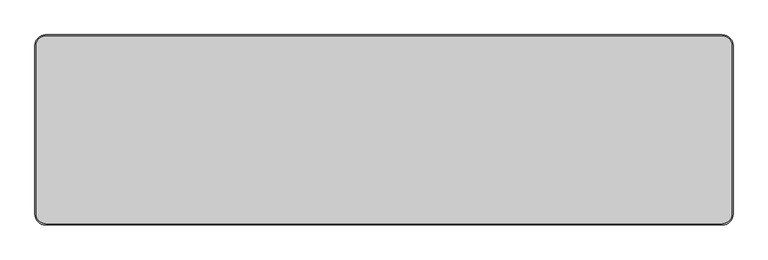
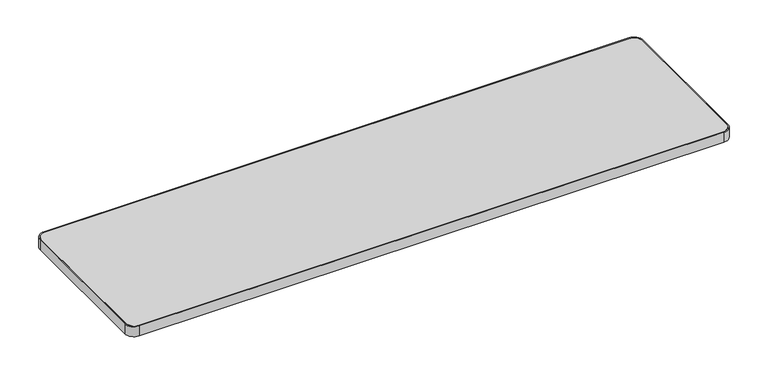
"""IFC4 building model written with IfcOpenShell, lengths in millimetres: furniture geometry, Steelcase - Groupwork - Table - Top - Rectangular : 18D x 66W - HPL."""

from ifc_helpers import new_model, si_unit, point, frame, frame_2d, origin, place, context, project, spatial, polyline, circle_curve, trimmed, segment, composite_curve, outline, extrude, source, transform, mapped, element, save


def furniture_92243f09(model_context):
    return source(origin(), model_context, "Body", "SweptSolid", [
        extrude(outline(composite_curve([segment(polyline([(-840.74, 225.6), (783.94, 225.6)]), True, "CONTINUOUS"), segment(trimmed(circle_curve(frame_2d((783.94, 202.74)), 22.86), [point((783.94, 225.6))], [point((806.8, 202.74))], False, "CARTESIAN"), True, "CONTINUOUS"), segment(polyline([(806.8, 202.74), (806.8, -202.74)]), True, "CONTINUOUS"), segment(trimmed(circle_curve(frame_2d((783.94, -202.74)), 22.86), [point((806.8, -202.74))], [point((783.94, -225.6))], False, "CARTESIAN"), True, "CONTINUOUS"), segment(polyline([(783.94, -225.6), (-840.74, -225.6)]), True, "CONTINUOUS"), segment(trimmed(circle_curve(frame_2d((-840.74, -202.74)), 22.86), [point((-840.74, -225.6))], [point((-863.6, -202.74))], False, "CARTESIAN"), True, "CONTINUOUS"), segment(polyline([(-863.6, -202.74), (-863.6, 202.74)]), True, "CONTINUOUS"), segment(trimmed(circle_curve(frame_2d((-840.74, 202.74)), 22.86), [point((-863.6, 202.74))], [point((-840.74, 225.6))], False, "CARTESIAN"), True, "CONTINUOUS")], self_intersect=False)), frame((0.0, 0.0, 694.944), z_axis=(0.0, 0.0, 1.0), x_axis=(1.0, 0.0, 0.0)), (0.0, 0.0, 1.0), 28.956),
        extrude(outline(composite_curve([segment(trimmed(circle_curve(frame_2d((784.3385373, 203.1385373)), 25.4614627), [point((784.3385373, 228.6))], [point((809.8, 203.1385373))], False, "CARTESIAN"), True, "CONTINUOUS"), segment(polyline([(809.8, 203.1385373), (809.8, -203.2211297)]), True, "CONTINUOUS"), segment(trimmed(circle_curve(frame_2d((784.4211297, -203.2211297)), 25.3788703), [point((809.8, -203.2211297))], [point((784.4211297, -228.6))], False, "CARTESIAN"), True, "CONTINUOUS"), segment(polyline([(784.4211297, -228.6), (-841.2, -228.6)]), True, "CONTINUOUS"), segment(trimmed(circle_curve(frame_2d((-841.2, -203.2)), 25.4), [point((-841.2, -228.6))], [point((-866.6, -203.2))], False, "CARTESIAN"), True, "CONTINUOUS"), segment(polyline([(-866.6, -203.2), (-866.6, 203.2)]), True, "CONTINUOUS"), segment(trimmed(circle_curve(frame_2d((-841.2, 203.2)), 25.4), [point((-866.6, 203.2))], [point((-841.2, 228.6))], False, "CARTESIAN"), True, "CONTINUOUS"), segment(polyline([(-841.2, 228.6), (784.3385373, 228.6)]), True, "CONTINUOUS")], self_intersect=False), holes=[composite_curve([segment(polyline([(784.0064662, 225.6), (-840.74, 225.6)]), True, "CONTINUOUS"), segment(trimmed(circle_curve(frame_2d((-840.74, 202.74)), 22.86), [point((-840.74, 225.6))], [point((-863.6, 202.74))], True, "CARTESIAN"), True, "CONTINUOUS"), segment(polyline([(-863.6, 202.74), (-863.6, -202.74)]), True, "CONTINUOUS"), segment(trimmed(circle_curve(frame_2d((-840.74, -202.74)), 22.86), [point((-863.6, -202.74))], [point((-840.74, -225.6))], True, "CARTESIAN"), True, "CONTINUOUS"), segment(polyline([(-840.74, -225.6), (783.773488, -225.6)]), True, "CONTINUOUS"), segment(trimmed(circle_curve(frame_2d((783.773488, -202.573488)), 23.026512), [point((783.773488, -225.6))], [point((806.8, -202.573488))], True, "CARTESIAN"), True, "CONTINUOUS"), segment(polyline([(806.8, -202.573488), (806.8, 202.8064662)]), True, "CONTINUOUS"), segment(trimmed(circle_curve(frame_2d((784.0064662, 202.8064662)), 22.7935338), [point((806.8, 202.8064662))], [point((784.0064662, 225.6))], True, "CARTESIAN"), True, "CONTINUOUS")], self_intersect=False)]), frame((0.0, 0.0, 694.944), z_axis=(0.0, 0.0, 1.0), x_axis=(1.0, 0.0, 0.0)), (0.0, 0.0, 1.0), 28.956),
    ])


if __name__ == "__main__":
    model = new_model("IFC4")
    model_context = context("Model", 3, world=origin())
    ifc_project = project(units=[si_unit("LENGTHUNIT", "METRE", prefix="MILLI")], contexts=[model_context])
    site = spatial("IfcSite", under=ifc_project)
    building = spatial("IfcBuilding", under=site)
    placement = place(None, origin())
    furniture_shape = furniture_92243f09(model_context)
    element("IfcFurniture", 1, ObjectType="Steelcase - Groupwork - Table - Top - Rectangular : 18D x 66W - HPL", at=placement, inside=building, context=model_context, shape_type="MappedRepresentation", body=[
        mapped(furniture_shape, transform((0.0, 0.0, 0.0), x_axis=(1.0, 0.0, 0.0), y_axis=(0.0, 1.0, 0.0), z_axis=(0.0, 0.0, 1.0))),
    ])
    save(model, "model.ifc")
